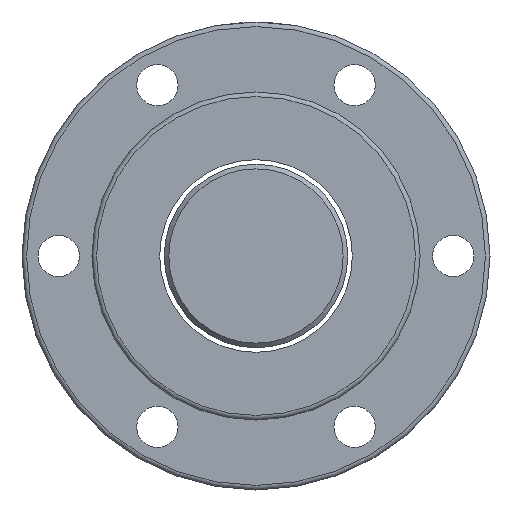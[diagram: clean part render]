
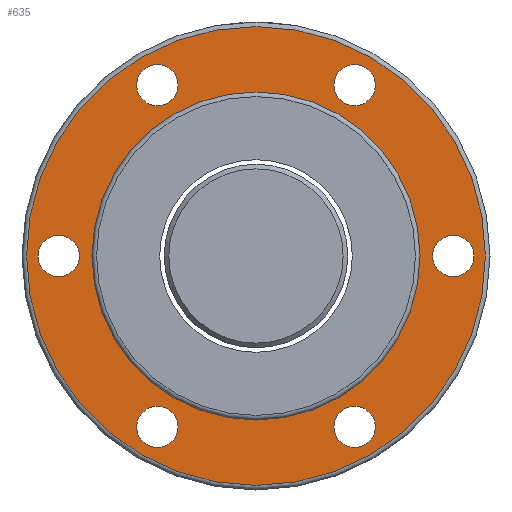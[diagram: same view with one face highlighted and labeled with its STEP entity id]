
A CAD part, left-side view. The second image highlights one B-rep face of the part: STEP entity #635.
In plain terms, the highlighted planar face has unit normal (-1, 0, 0).
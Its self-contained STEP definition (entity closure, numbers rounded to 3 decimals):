
#74=PLANE('',#752);
#162=ORIENTED_EDGE('',*,*,#250,.F.);
#163=ORIENTED_EDGE('',*,*,#254,.T.);
#164=ORIENTED_EDGE('',*,*,#248,.F.);
#165=ORIENTED_EDGE('',*,*,#244,.F.);
#166=ORIENTED_EDGE('',*,*,#240,.F.);
#167=ORIENTED_EDGE('',*,*,#236,.F.);
#168=ORIENTED_EDGE('',*,*,#232,.F.);
#169=ORIENTED_EDGE('',*,*,#228,.F.);
#228=EDGE_CURVE('',#289,#289,#340,.T.);
#232=EDGE_CURVE('',#293,#293,#344,.T.);
#236=EDGE_CURVE('',#297,#297,#348,.T.);
#240=EDGE_CURVE('',#301,#301,#352,.T.);
#244=EDGE_CURVE('',#305,#305,#356,.T.);
#248=EDGE_CURVE('',#309,#309,#360,.T.);
#250=EDGE_CURVE('',#311,#311,#362,.T.);
#254=EDGE_CURVE('',#315,#315,#366,.T.);
#289=VERTEX_POINT('',#1060);
#293=VERTEX_POINT('',#1071);
#297=VERTEX_POINT('',#1082);
#301=VERTEX_POINT('',#1093);
#305=VERTEX_POINT('',#1104);
#309=VERTEX_POINT('',#1115);
#311=VERTEX_POINT('',#1120);
#315=VERTEX_POINT('',#1133);
#340=CIRCLE('',#704,9.);
#344=CIRCLE('',#711,9.);
#348=CIRCLE('',#718,9.);
#352=CIRCLE('',#725,9.);
#356=CIRCLE('',#732,9.);
#360=CIRCLE('',#739,9.);
#362=CIRCLE('',#742,71.5);
#366=CIRCLE('',#751,100.);
#447=EDGE_LOOP('',(#162));
#448=EDGE_LOOP('',(#163));
#449=EDGE_LOOP('',(#164));
#450=EDGE_LOOP('',(#165));
#451=EDGE_LOOP('',(#166));
#452=EDGE_LOOP('',(#167));
#453=EDGE_LOOP('',(#168));
#454=EDGE_LOOP('',(#169));
#550=FACE_BOUND('',#447,.T.);
#551=FACE_BOUND('',#448,.T.);
#552=FACE_BOUND('',#449,.T.);
#553=FACE_BOUND('',#450,.T.);
#554=FACE_BOUND('',#451,.T.);
#555=FACE_BOUND('',#452,.T.);
#556=FACE_BOUND('',#453,.T.);
#557=FACE_BOUND('',#454,.T.);
#635=ADVANCED_FACE('',(#550,#551,#552,#553,#554,#555,#556,#557),#74,.T.);
#704=AXIS2_PLACEMENT_3D('',#1059,#832,#833);
#711=AXIS2_PLACEMENT_3D('',#1070,#846,#847);
#718=AXIS2_PLACEMENT_3D('',#1081,#860,#861);
#725=AXIS2_PLACEMENT_3D('',#1092,#874,#875);
#732=AXIS2_PLACEMENT_3D('',#1103,#888,#889);
#739=AXIS2_PLACEMENT_3D('',#1114,#902,#903);
#742=AXIS2_PLACEMENT_3D('',#1119,#908,#909);
#751=AXIS2_PLACEMENT_3D('',#1132,#926,#927);
#752=AXIS2_PLACEMENT_3D('',#1134,#928,#929);
#832=DIRECTION('',(-1.,0.,0.));
#833=DIRECTION('',(0.,-1.,0.));
#846=DIRECTION('',(-1.,0.,0.));
#847=DIRECTION('',(0.,-1.,0.));
#860=DIRECTION('',(-1.,0.,0.));
#861=DIRECTION('',(0.,-1.,0.));
#874=DIRECTION('',(-1.,0.,0.));
#875=DIRECTION('',(0.,-1.,0.));
#888=DIRECTION('',(-1.,0.,0.));
#889=DIRECTION('',(0.,-1.,0.));
#902=DIRECTION('',(-1.,0.,0.));
#903=DIRECTION('',(0.,-1.,0.));
#908=DIRECTION('',(-1.,0.,0.));
#909=DIRECTION('',(0.,-1.,0.));
#926=DIRECTION('',(-1.,0.,0.));
#927=DIRECTION('',(0.,-1.,0.));
#928=DIRECTION('',(-1.,0.,0.));
#929=DIRECTION('',(0.,-1.,0.));
#1059=CARTESIAN_POINT('',(-68.,86.,0.));
#1060=CARTESIAN_POINT('',(-68.,77.,0.));
#1070=CARTESIAN_POINT('',(-68.,-86.,0.));
#1071=CARTESIAN_POINT('',(-68.,-95.,0.));
#1081=CARTESIAN_POINT('',(-68.,-43.,-74.478));
#1082=CARTESIAN_POINT('',(-68.,-52.,-74.478));
#1092=CARTESIAN_POINT('',(-68.,43.,-74.478));
#1093=CARTESIAN_POINT('',(-68.,34.,-74.478));
#1103=CARTESIAN_POINT('',(-68.,-43.,74.478));
#1104=CARTESIAN_POINT('',(-68.,-52.,74.478));
#1114=CARTESIAN_POINT('',(-68.,43.,74.478));
#1115=CARTESIAN_POINT('',(-68.,34.,74.478));
#1119=CARTESIAN_POINT('',(-68.,0.,0.));
#1120=CARTESIAN_POINT('',(-68.,-71.5,0.));
#1132=CARTESIAN_POINT('',(-68.,0.,0.));
#1133=CARTESIAN_POINT('',(-68.,-100.,0.));
#1134=CARTESIAN_POINT('',(-68.,85.75,0.));
